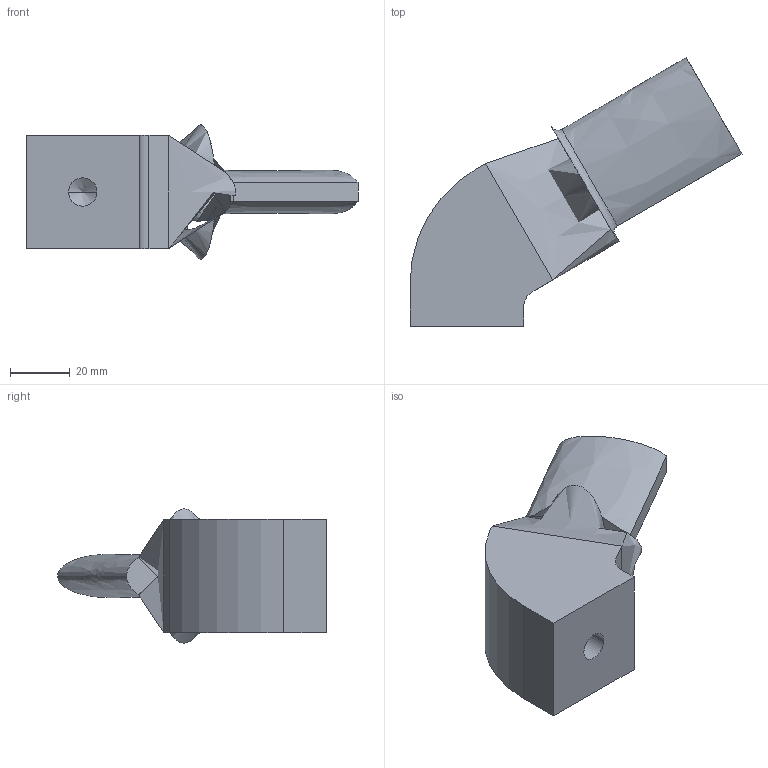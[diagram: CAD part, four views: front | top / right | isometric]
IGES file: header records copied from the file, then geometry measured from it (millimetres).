
Start section:  PTC IGES file: newadapterblue.igs
Global section: file name: newadapterblue.igs; native system: Creo Parametric by Parametric Technology Corporation; preprocessor: 2013150; author: amh1259; organization: Unknown; date: 20131108.134429; units: inch
Bounding box: 111.44 x 90.24 x 45.06 mm (x, y, z)
Volume: 115504.9 mm3; surface area: 17775.5 mm2
Topology: 1 solids, 1 shells, 23 faces, 62 edges, 37 vertices
Faces by surface type: bspline 16, revolution 7
